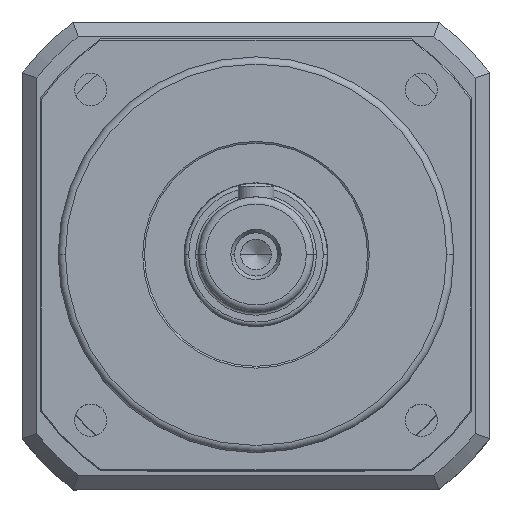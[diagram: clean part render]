
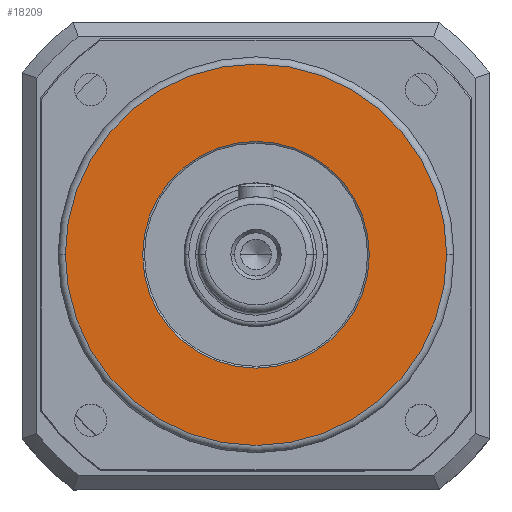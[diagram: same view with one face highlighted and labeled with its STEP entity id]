
A CAD part, top view. The second image highlights one B-rep face of the part: STEP entity #18209.
In plain terms, the highlighted planar face has unit normal (0, 0, 1).
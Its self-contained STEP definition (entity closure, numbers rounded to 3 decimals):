
#2057 = FACE_BOUND ( 'NONE', #9140, .T. ) ;
#2058 = FACE_OUTER_BOUND ( 'NONE', #9141, .T. ) ;
#3180 = AXIS2_PLACEMENT_3D ( 'NONE', #3518, #3519, #3520 ) ;
#3517 = PLANE ( 'NONE',  #3180 ) ;
#3518 = CARTESIAN_POINT ( 'NONE',  ( 0., 0., 12. ) ) ;
#3519 = DIRECTION ( 'NONE',  ( 0., 0., 1. ) ) ;
#3520 = DIRECTION ( 'NONE',  ( 1., 0., 0. ) ) ;
#5216 = CARTESIAN_POINT ( 'NONE',  ( 0., 0., 12. ) ) ;
#5217 = DIRECTION ( 'NONE',  ( 0., 0., 1. ) ) ;
#5218 = DIRECTION ( 'NONE',  ( 1., 0., 0. ) ) ;
#5351 = CIRCLE ( 'NONE', #5361, 53. ) ;
#5361 = AXIS2_PLACEMENT_3D ( 'NONE', #5216, #5217, #5218 ) ;
#6196 = CARTESIAN_POINT ( 'NONE',  ( 53., 0., 12. ) ) ;
#6200 = CARTESIAN_POINT ( 'NONE',  ( -53., 0., 12. ) ) ;
#6202 = CARTESIAN_POINT ( 'NONE',  ( 31.5, 0., 12. ) ) ;
#6204 = CARTESIAN_POINT ( 'NONE',  ( -31.5, 0., 12. ) ) ;
#9140 = EDGE_LOOP ( 'NONE', ( #14121, #14123 ) ) ;
#9141 = EDGE_LOOP ( 'NONE', ( #14125, #14124 ) ) ;
#9151 = VERTEX_POINT ( 'NONE', #6196 ) ;
#9155 = VERTEX_POINT ( 'NONE', #6200 ) ;
#9157 = VERTEX_POINT ( 'NONE', #6202 ) ;
#9159 = VERTEX_POINT ( 'NONE', #6204 ) ;
#10175 = EDGE_CURVE ( 'NONE', #9157, #9159, #20744, .T. ) ;
#10179 = EDGE_CURVE ( 'NONE', #9151, #9155, #20765, .T. ) ;
#10519 = CIRCLE ( 'NONE', #10521, 31.5 ) ;
#10521 = AXIS2_PLACEMENT_3D ( 'NONE', #14872, #14873, #14874 ) ;
#14121 = ORIENTED_EDGE ( 'NONE', *, *, #10175, .T. ) ;
#14123 = ORIENTED_EDGE ( 'NONE', *, *, #15453, .T. ) ;
#14124 = ORIENTED_EDGE ( 'NONE', *, *, #19271, .T. ) ;
#14125 = ORIENTED_EDGE ( 'NONE', *, *, #10179, .T. ) ;
#14872 = CARTESIAN_POINT ( 'NONE',  ( 0., 0., 12. ) ) ;
#14873 = DIRECTION ( 'NONE',  ( 0., 0., -1. ) ) ;
#14874 = DIRECTION ( 'NONE',  ( 1., 0., 0. ) ) ;
#15453 = EDGE_CURVE ( 'NONE', #9159, #9157, #10519, .T. ) ;
#18209 = ADVANCED_FACE ( 'NONE', ( #2057, #2058 ), #3517, .T. ) ;
#19271 = EDGE_CURVE ( 'NONE', #9155, #9151, #5351, .T. ) ;
#20633 = CARTESIAN_POINT ( 'NONE',  ( 0., 0., 12. ) ) ;
#20635 = DIRECTION ( 'NONE',  ( 0., 0., -1. ) ) ;
#20637 = DIRECTION ( 'NONE',  ( 1., 0., 0. ) ) ;
#20655 = CARTESIAN_POINT ( 'NONE',  ( 0., 0., 12. ) ) ;
#20656 = DIRECTION ( 'NONE',  ( 0., 0., 1. ) ) ;
#20657 = DIRECTION ( 'NONE',  ( 1., 0., 0. ) ) ;
#20744 = CIRCLE ( 'NONE', #20759, 31.5 ) ;
#20759 = AXIS2_PLACEMENT_3D ( 'NONE', #20633, #20635, #20637 ) ;
#20765 = CIRCLE ( 'NONE', #20766, 53. ) ;
#20766 = AXIS2_PLACEMENT_3D ( 'NONE', #20655, #20656, #20657 ) ;
